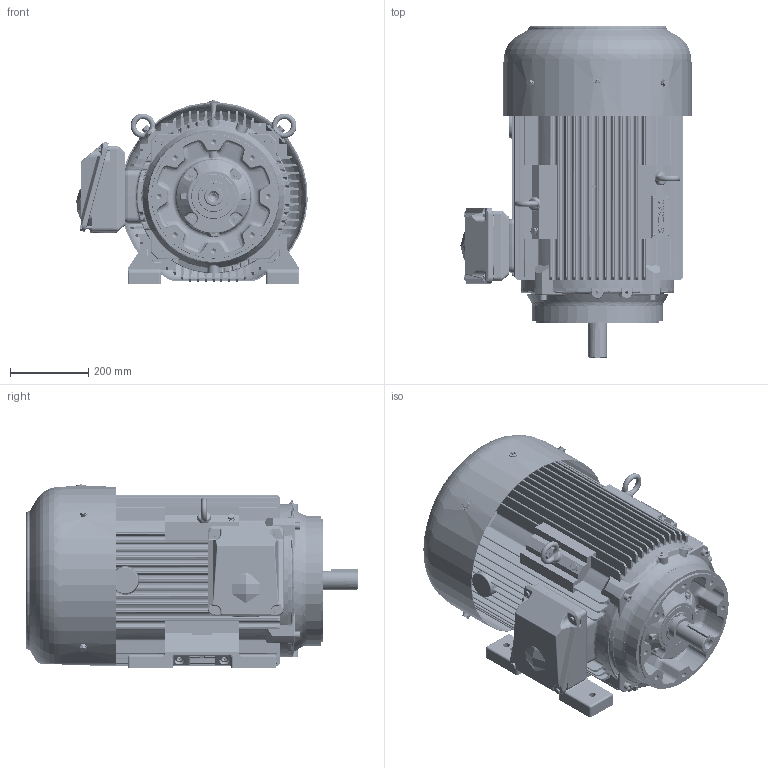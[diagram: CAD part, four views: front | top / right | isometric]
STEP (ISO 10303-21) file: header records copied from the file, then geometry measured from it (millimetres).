
FILE_DESCRIPTION(/* description */ ('Unknown','CAx-IF Rec.Pracs.---Representation and Presentation of Product Manufacturing Information (PMI)---4.0---2014-10-13','CAx-IF Rec.Pracs.---3D Tessellated Geometry---0.4---2014-09-14','2;1'),/* implementation_level */ '2;1');
FILE_NAME(/* name */ 'Silnik NEMA SIE360TSCL2 - do klienta',/* time_stamp */ '2024-07-08T08:49:01+02:00',/* author */ ('Unknown'),/* organization */ ('Unknown'),/* preprocessor_version */ 'ST-DEVELOPER v16.7',/* originating_system */ 'DEX',/* authorisation */ $);
FILE_SCHEMA (('AP242_MANAGED_MODEL_BASED_3D_ENGINEERING_MIM_LF { 1 0 10303 442 20130219 1 4 }'));
Length unit declared in the file: millimetre
Products named in the file (1): Silnik NEMA SIE360TSCL2 - do klienta
Bounding box: 592.82 x 850.62 x 473 mm (x, y, z)
Volume: 43076139.2 mm3; surface area: 5826202 mm2
Topology: 1 solids, 39 shells, 9196 faces, 24793 edges, 15488 vertices
Faces by surface type: plane 5227, cylinder 1838, bspline 902, torus 637, cone 344, sphere 248
Full cylindrical faces by diameter (mm): 1.6 x2, 2.5 x2, 3 x10, 3.5 x4, 4.134 x2, 4.917 x3, 5 x5, 6 x5, 6.3 x1, 6.4 x2, 6.466 x8, 6.647 x12, 8 x26, 8.376 x6, 8.5 x1, 8.917 x2, 9 x12, 9.853 x4, 10 x22, 10.106 x9, 10.5 x5, 11.63 x1, 12 x12, 13 x10, 13.376 x8, 13.546 x4, 13.835 x8, 14 x6, 14.63 x1, 16 x8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
Entity records: 323995 total; most frequent: CARTESIAN_POINT 101924, ORIENTED_EDGE 47102, DIRECTION 42737, EDGE_CURVE 23551, VERTEX_POINT 15106, LINE 14895, VECTOR 14895, AXIS2_PLACEMENT_3D 13921
